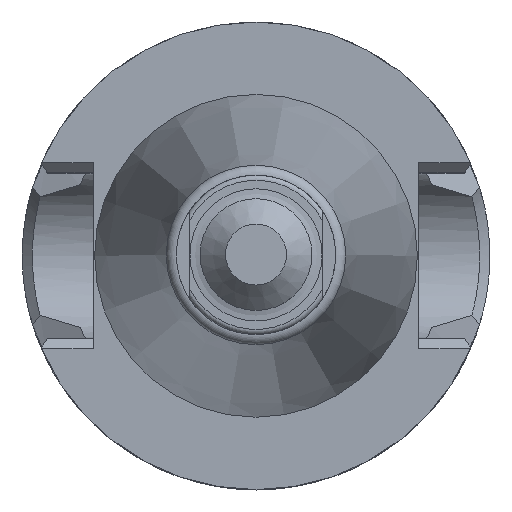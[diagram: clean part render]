
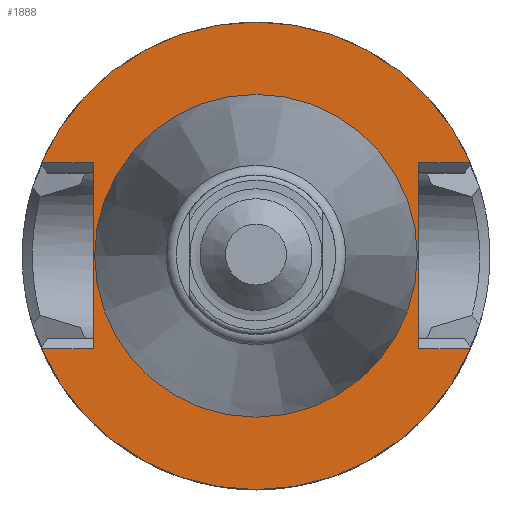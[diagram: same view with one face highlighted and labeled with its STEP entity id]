
A CAD part, top view. The second image highlights one B-rep face of the part: STEP entity #1888.
In plain terms, the highlighted planar face has unit normal (0, 0, 1).
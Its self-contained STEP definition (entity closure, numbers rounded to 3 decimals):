
#25=FACE_BOUND('',#551,.T.);
#133=LINE('',#3069,#255);
#147=LINE('',#3124,#269);
#149=LINE('',#3152,#271);
#150=LINE('',#3154,#272);
#151=LINE('',#3155,#273);
#152=LINE('',#3156,#274);
#255=VECTOR('',#2373,10.);
#269=VECTOR('',#2403,10.);
#271=VECTOR('',#2423,10.);
#272=VECTOR('',#2424,10.);
#273=VECTOR('',#2425,10.);
#274=VECTOR('',#2426,10.);
#374=PLANE('',#2112);
#443=FACE_OUTER_BOUND('',#550,.T.);
#550=EDGE_LOOP('',(#1406,#1407,#1408,#1409,#1410,#1411,#1412,#1413));
#551=EDGE_LOOP('',(#1414));
#669=CIRCLE('',#2110,23.);
#670=CIRCLE('',#2113,23.);
#671=CIRCLE('',#2114,15.5);
#821=VERTEX_POINT('',#3067);
#822=VERTEX_POINT('',#3068);
#839=VERTEX_POINT('',#3121);
#840=VERTEX_POINT('',#3123);
#845=VERTEX_POINT('',#3143);
#847=VERTEX_POINT('',#3149);
#848=VERTEX_POINT('',#3151);
#849=VERTEX_POINT('',#3153);
#850=VERTEX_POINT('',#3157);
#1032=EDGE_CURVE('',#821,#822,#133,.T.);
#1054=EDGE_CURVE('',#839,#840,#147,.T.);
#1061=EDGE_CURVE('',#840,#845,#669,.T.);
#1064=EDGE_CURVE('',#847,#821,#670,.T.);
#1065=EDGE_CURVE('',#848,#847,#149,.T.);
#1066=EDGE_CURVE('',#848,#849,#150,.T.);
#1067=EDGE_CURVE('',#845,#849,#151,.T.);
#1068=EDGE_CURVE('',#839,#822,#152,.T.);
#1069=EDGE_CURVE('',#850,#850,#671,.T.);
#1406=ORIENTED_EDGE('',*,*,#1032,.F.);
#1407=ORIENTED_EDGE('',*,*,#1064,.F.);
#1408=ORIENTED_EDGE('',*,*,#1065,.F.);
#1409=ORIENTED_EDGE('',*,*,#1066,.T.);
#1410=ORIENTED_EDGE('',*,*,#1067,.F.);
#1411=ORIENTED_EDGE('',*,*,#1061,.F.);
#1412=ORIENTED_EDGE('',*,*,#1054,.F.);
#1413=ORIENTED_EDGE('',*,*,#1068,.T.);
#1414=ORIENTED_EDGE('',*,*,#1069,.T.);
#1888=ADVANCED_FACE('',(#443,#25),#374,.T.);
#2110=AXIS2_PLACEMENT_3D('',#3144,#2414,#2415);
#2112=AXIS2_PLACEMENT_3D('',#3148,#2419,#2420);
#2113=AXIS2_PLACEMENT_3D('',#3150,#2421,#2422);
#2114=AXIS2_PLACEMENT_3D('',#3158,#2427,#2428);
#2373=DIRECTION('',(-1.,0.,0.));
#2403=DIRECTION('',(1.,0.,0.));
#2414=DIRECTION('center_axis',(0.,0.,-1.));
#2415=DIRECTION('ref_axis',(1.,0.,0.));
#2419=DIRECTION('center_axis',(0.,0.,1.));
#2420=DIRECTION('ref_axis',(1.,0.,0.));
#2421=DIRECTION('center_axis',(0.,0.,-1.));
#2422=DIRECTION('ref_axis',(1.,0.,0.));
#2423=DIRECTION('',(-1.,0.,0.));
#2424=DIRECTION('',(0.,-1.,0.));
#2425=DIRECTION('',(1.,0.,0.));
#2426=DIRECTION('',(0.,1.,0.));
#2427=DIRECTION('center_axis',(0.,0.,-1.));
#2428=DIRECTION('ref_axis',(1.,0.,0.));
#3067=CARTESIAN_POINT('',(21.102,9.15,-50.4));
#3068=CARTESIAN_POINT('',(16.,9.15,-50.4));
#3069=CARTESIAN_POINT('',(23.,9.15,-50.4));
#3121=CARTESIAN_POINT('',(16.,-9.15,-50.4));
#3123=CARTESIAN_POINT('',(21.102,-9.15,-50.4));
#3124=CARTESIAN_POINT('',(23.,-9.15,-50.4));
#3143=CARTESIAN_POINT('',(-21.102,-9.15,-50.4));
#3144=CARTESIAN_POINT('Origin',(0.,0.,-50.4));
#3148=CARTESIAN_POINT('Origin',(23.,0.,-50.4));
#3149=CARTESIAN_POINT('',(-21.102,9.15,-50.4));
#3150=CARTESIAN_POINT('Origin',(0.,0.,-50.4));
#3151=CARTESIAN_POINT('',(-16.,9.15,-50.4));
#3152=CARTESIAN_POINT('',(0.,9.15,-50.4));
#3153=CARTESIAN_POINT('',(-16.,-9.15,-50.4));
#3154=CARTESIAN_POINT('',(-16.,0.,-50.4));
#3155=CARTESIAN_POINT('',(0.,-9.15,-50.4));
#3156=CARTESIAN_POINT('',(16.,0.,-50.4));
#3157=CARTESIAN_POINT('',(-15.5,0.,-50.4));
#3158=CARTESIAN_POINT('Origin',(0.,0.,-50.4));
